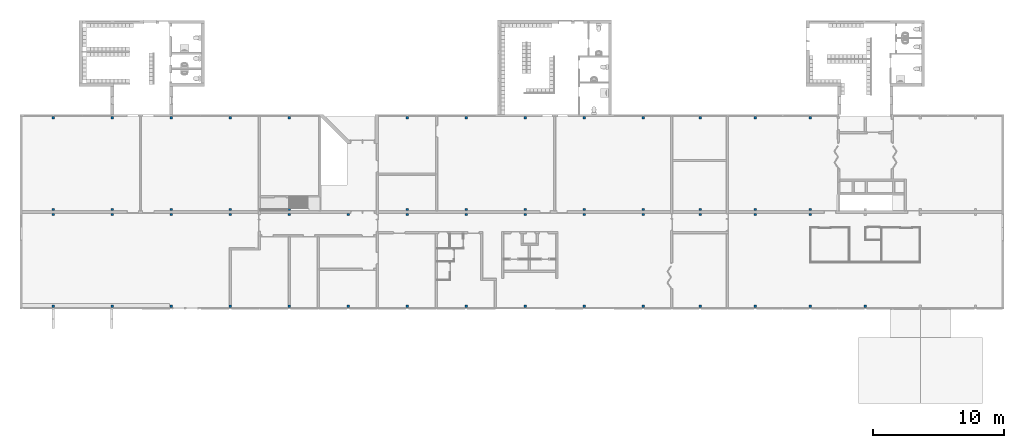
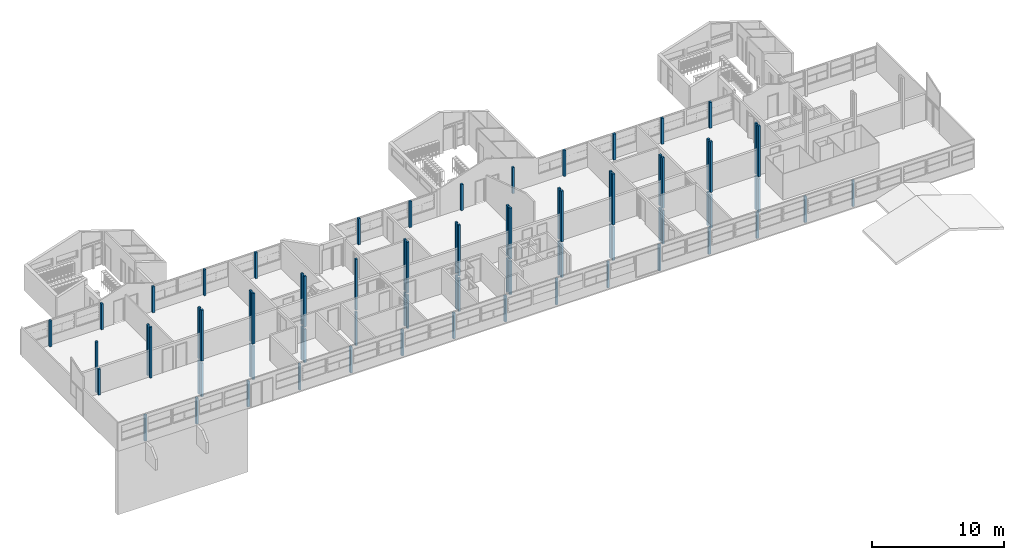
# One storey, part 7 of 48: 55 columns.
"""IFC2X3 building model written with IfcOpenShell, lengths in millimetres."""

from ifc_helpers import new_model, entity, si_unit, converted_unit, derived_unit, money_unit, direction, frame, origin_with_axes, place, context, subcontext, project, spatial, faceted_brep, material, type_object, element, save


model = new_model("IFC2X3")

# Units and contexts
model_context = context("Model", 3, precision=0.01, world=origin_with_axes(), true_north=direction((0.0, 1.0)))
body_context = subcontext(model_context, "Body", "Model", "MODEL_VIEW")
ifc_project = project(units=[si_unit("LENGTHUNIT", "METRE", prefix="MILLI"), si_unit("AREAUNIT", "SQUARE_METRE"), si_unit("VOLUMEUNIT", "CUBIC_METRE"), converted_unit("PLANEANGLEUNIT", "DEGREE", entity("IfcPlaneAngleMeasure", 0.0174532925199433), si_unit("PLANEANGLEUNIT", "RADIAN"), dimensions=[0, 0, 0, 0, 0, 0, 0]), money_unit("USD"), converted_unit("TIMEUNIT", "Year", entity("IfcTimeMeasure", 31557600.0), si_unit("TIMEUNIT", "SECOND"), dimensions=[0, 0, 1, 0, 0, 0, 0]), si_unit("MASSUNIT", "GRAM", prefix="KILO"), si_unit("THERMODYNAMICTEMPERATUREUNIT", "DEGREE_CELSIUS"), si_unit("LUMINOUSINTENSITYUNIT", "LUMEN"), si_unit("ENERGYUNIT", "JOULE", prefix="MEGA"), derived_unit("THERMALCONDUCTANCEUNIT", [(si_unit("POWERUNIT", "WATT"), 1), (si_unit("LENGTHUNIT", "METRE"), -1), (si_unit("THERMODYNAMICTEMPERATUREUNIT", "KELVIN"), -1)]), derived_unit("SPECIFICHEATCAPACITYUNIT", [(si_unit("ENERGYUNIT", "JOULE"), 1), (si_unit("MASSUNIT", "GRAM", prefix="KILO"), -1), (si_unit("THERMODYNAMICTEMPERATUREUNIT", "KELVIN"), -1)]), derived_unit("MASSDENSITYUNIT", [(si_unit("MASSUNIT", "GRAM", prefix="KILO"), 1), (si_unit("VOLUMEUNIT", "CUBIC_METRE"), -1)])], contexts=[model_context])

# Site, building, storey
site_placement = place(None, origin_with_axes())
site = spatial("IfcSite", under=ifc_project, at=site_placement, Name="Site", CompositionType="ELEMENT")
building_placement = place(site_placement, origin_with_axes())
building = spatial("IfcBuilding", under=site, at=building_placement, Name="Building", CompositionType="ELEMENT")
storey_placement = place(building_placement, frame((0.0, 0.0, 3300.0), z_axis=(0.0, 0.0, 1.0), x_axis=(1.0, 0.0, 0.0)))
storey = spatial("IfcBuildingStorey", under=building, at=storey_placement, Name="1 ETG", CompositionType="ELEMENT", Elevation=3300.0)

# Columns
ifc_material = material(Name="GENERIC - STRUCTURAL")
column_type_1 = type_object("IfcColumnType", Name="GENERIC - STRUCTURAL 180 x 200", PredefinedType="COLUMN")
for number, where, z_axis, x_axis, name in (
    (1, (31499.99999999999, 7299.802441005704, 0.0), (0.0, 0.0, 1.0), (1.0, 0.0, 0.0), "CRE - 001"),
    (2, (26999.99999999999, 7299.794481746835, 0.0), (0.0, 0.0, 1.0), (1.0, 0.0, 0.0), "CRE - 001"),
):
    element("IfcColumn", number, at=place(storey_placement, frame(where, z_axis=z_axis, x_axis=x_axis)), inside=storey, type_object=column_type_1, material=ifc_material, Name=name, ObjectType="COLUMN", context=body_context, shape_type="Brep", body=[
        faceted_brep([(89.99999999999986, -99.99999999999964, 2400.0), (-89.99999999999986, -99.99999999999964, 2400.0), (-89.99999999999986, -99.99999999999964, 0.0), (89.99999999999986, -99.99999999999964, 0.0), (89.99999999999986, 100.0000000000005, 2400.0), (-89.99999999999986, 100.0000000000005, 2400.0), (-89.99999999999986, 100.0000000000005, 0.0), (89.99999999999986, 100.0000000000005, 0.0)], [[[0, 1, 2, 3]], [[4, 5, 1, 0]], [[1, 5, 6, 2]], [[7, 3, 2, 6]], [[4, 0, 3, 7]], [[5, 4, 7, 6]]]),
    ])
for number, where, z_axis, x_axis, name in (
    (3, (35999.99999999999, 7299.810400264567, 0.0), (0.0, 0.0, 1.0), (1.0, 0.0, 0.0), "CRE - 001"),
    (4, (40499.99999999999, 7299.818359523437, 0.0), (0.0, 0.0, 1.0), (1.0, 0.0, 0.0), "CRE - 001"),
    (5, (44999.99999999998, 7299.826318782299, 0.0), (0.0, 0.0, 1.0), (1.0, 0.0, 0.0), "CRE - 001"),
    (6, (49349.99999999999, 7299.834012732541, 0.0), (0.0, 0.0, 1.0), (1.0, 0.0, 0.0), "CRE - 001"),
):
    element("IfcColumn", number, at=place(storey_placement, frame(where, z_axis=z_axis, x_axis=x_axis)), inside=storey, type_object=column_type_1, material=ifc_material, Name=name, ObjectType="COLUMN", context=body_context, shape_type="Brep", body=[
        faceted_brep([(90.00000000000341, -99.99999999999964, 2400.0), (-90.00000000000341, -99.99999999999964, 2400.0), (-90.00000000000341, -99.99999999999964, 0.0), (90.00000000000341, -99.99999999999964, 0.0), (90.00000000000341, 100.0000000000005, 2400.0), (-90.00000000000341, 100.0000000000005, 2400.0), (-90.00000000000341, 100.0000000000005, 0.0), (90.00000000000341, 100.0000000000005, 0.0)], [[[0, 1, 2, 3]], [[4, 5, 1, 0]], [[1, 5, 6, 2]], [[7, 3, 2, 6]], [[4, 0, 3, 7]], [[5, 4, 7, 6]]]),
    ])
for number, where, z_axis, x_axis, name in (
    (7, (22499.99999999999, 7299.786522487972, 0.0), (0.0, 0.0, 1.0), (1.0, 0.0, 0.0), "CRE - 001"),
    (8, (18000.00000000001, 7299.778563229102, 0.0), (0.0, 0.0, 1.0), (1.0, 0.0, 0.0), "CRE - 001"),
    (9, (13499.99999999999, 7299.770603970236, 0.0), (0.0, 0.0, 1.0), (1.0, 0.0, 0.0), "CRE - 001"),
    (10, (8999.999999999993, 7299.76264471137, 0.0), (0.0, 0.0, 1.0), (1.0, 0.0, 0.0), "CRE - 001"),
):
    element("IfcColumn", number, at=place(storey_placement, frame(where, z_axis=z_axis, x_axis=x_axis)), inside=storey, type_object=column_type_1, material=ifc_material, Name=name, ObjectType="COLUMN", context=body_context, shape_type="Brep", body=[
        faceted_brep([(89.99999999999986, -99.99999999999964, 2400.0), (-89.99999999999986, -99.99999999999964, 2400.0), (-89.99999999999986, -99.99999999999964, 0.0), (89.99999999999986, -99.99999999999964, 0.0), (89.99999999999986, 100.0000000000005, 2400.0), (-89.99999999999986, 100.0000000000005, 2400.0), (-89.99999999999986, 100.0000000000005, 0.0), (89.99999999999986, 100.0000000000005, 0.0)], [[[0, 1, 2, 3]], [[4, 5, 1, 0]], [[1, 5, 6, 2]], [[7, 3, 2, 6]], [[4, 0, 3, 7]], [[5, 4, 7, 6]]]),
    ])
for number, where, z_axis, x_axis, name in (
    (11, (0.0, 7299.746549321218, 0.0), (0.0, 0.0, 1.0), (1.0, 0.0, 0.0), "CRE - 001"),
    (12, (53549.99999999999, 7299.874976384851, 0.0), (0.0, 0.0, 1.0), (1.0, 0.0, 0.0), "CRE - 001"),
):
    element("IfcColumn", number, at=place(storey_placement, frame(where, z_axis=z_axis, x_axis=x_axis)), inside=storey, type_object=column_type_1, material=ifc_material, Name=name, ObjectType="COLUMN", context=body_context, shape_type="Brep", body=[
        faceted_brep([(90.00000000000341, -99.99999999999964, 2400.0), (-90.00000000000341, -99.99999999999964, 2400.0), (-90.00000000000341, -99.99999999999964, 0.0), (90.00000000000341, -99.99999999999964, 0.0), (90.00000000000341, 100.0000000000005, 2400.0), (-90.00000000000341, 100.0000000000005, 2400.0), (-90.00000000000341, 100.0000000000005, 0.0), (90.00000000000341, 100.0000000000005, 0.0)], [[[0, 1, 2, 3]], [[4, 5, 1, 0]], [[1, 5, 6, 2]], [[7, 3, 2, 6]], [[4, 0, 3, 7]], [[5, 4, 7, 6]]]),
    ])
column_1_placement = place(storey_placement, frame((4499.999999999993, 7299.754597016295, 0.0), z_axis=(0.0, 0.0, 1.0), x_axis=(1.0, 0.0, 0.0)))
element("IfcColumn", 13, at=column_1_placement, inside=storey, type_object=column_type_1, material=ifc_material, Name="CRE - 001", ObjectType="COLUMN", context=body_context, shape_type="Brep", body=[
    faceted_brep([(89.99999999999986, -99.99999999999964, 2400.0), (-89.99999999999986, -99.99999999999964, 2400.0), (-89.99999999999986, -99.99999999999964, 0.0), (89.99999999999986, -99.99999999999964, 0.0), (89.99999999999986, 100.0000000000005, 2400.0), (-89.99999999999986, 100.0000000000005, 2400.0), (-89.99999999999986, 100.0000000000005, 0.0), (89.99999999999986, 100.0000000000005, 0.0)], [[[0, 1, 2, 3]], [[4, 5, 1, 0]], [[1, 5, 6, 2]], [[7, 3, 2, 6]], [[4, 0, 3, 7]], [[5, 4, 7, 6]]]),
])
for number, where, z_axis, x_axis, name in (
    (14, (57749.99999999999, 7299.848870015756, 0.0), (0.0, 0.0, 1.0), (1.0, 0.0, 0.0), "CRE - 001"),
    (15, (61949.99999999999, 7299.856298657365, 0.0), (0.0, 0.0, 1.0), (1.0, 0.0, 0.0), "CRE - 001"),
):
    element("IfcColumn", number, at=place(storey_placement, frame(where, z_axis=z_axis, x_axis=x_axis)), inside=storey, type_object=column_type_1, material=ifc_material, Name=name, ObjectType="COLUMN", context=body_context, shape_type="Brep", body=[
        faceted_brep([(90.00000000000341, -99.99999999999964, 2400.0), (-90.00000000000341, -99.99999999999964, 2400.0), (-90.00000000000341, -99.99999999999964, 0.0), (90.00000000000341, -99.99999999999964, 0.0), (90.00000000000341, 100.0000000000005, 2400.0), (-90.00000000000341, 100.0000000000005, 2400.0), (-90.00000000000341, 100.0000000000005, 0.0), (90.00000000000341, 100.0000000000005, 0.0)], [[[0, 1, 2, 3]], [[4, 5, 1, 0]], [[1, 5, 6, 2]], [[7, 3, 2, 6]], [[4, 0, 3, 7]], [[5, 4, 7, 6]]]),
    ])
for number, where, z_axis, x_axis, name in (
    (16, (53549.99999999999, 21699.90687090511, 0.0), (0.0, 0.0, 1.0), (1.0, 0.0, 0.0), "CRE - 001"),
    (17, (57749.99999999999, 21699.89985745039, 0.0), (0.0, 0.0, 1.0), (1.0, 0.0, 0.0), "CRE - 001"),
    (18, (49349.99999999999, 21699.91388435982, 0.0), (0.0, 0.0, 1.0), (1.0, 0.0, 0.0), "CRE - 001"),
    (19, (44999.99999999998, 21699.92114829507, 0.0), (0.0, 0.0, 1.0), (1.0, 0.0, 0.0), "CRE - 001"),
    (20, (35999.99999999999, 21699.87497638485, 0.0), (0.0, 0.0, 1.0), (1.0, 0.0, 0.0), "CRE - 001"),
    (21, (40499.99999999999, 21699.87497638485, 0.0), (0.0, 0.0, 1.0), (1.0, 0.0, 0.0), "CRE - 001"),
):
    element("IfcColumn", number, at=place(storey_placement, frame(where, z_axis=z_axis, x_axis=x_axis)), inside=storey, type_object=column_type_1, material=ifc_material, Name=name, ObjectType="COLUMN", context=body_context, shape_type="Brep", body=[
        faceted_brep([(90.00000000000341, -99.99999999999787, 2400.0), (-90.00000000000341, -99.99999999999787, 2400.0), (-90.00000000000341, -99.99999999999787, 0.0), (90.00000000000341, -99.99999999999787, 0.0), (90.00000000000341, 100.0000000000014, 2400.0), (-90.00000000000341, 100.0000000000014, 2400.0), (-90.00000000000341, 100.0000000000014, 0.0), (90.00000000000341, 100.0000000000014, 0.0)], [[[0, 1, 2, 3]], [[4, 5, 1, 0]], [[1, 5, 6, 2]], [[7, 3, 2, 6]], [[4, 0, 3, 7]], [[5, 4, 7, 6]]]),
    ])
for number, where, z_axis, x_axis, name in (
    (22, (31499.99999999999, 21699.94369154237, 0.0), (0.0, 0.0, 1.0), (1.0, 0.0, 0.0), "CRE - 001"),
    (23, (26999.99999999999, 21699.95120595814, 0.0), (0.0, 0.0, 1.0), (1.0, 0.0, 0.0), "CRE - 001"),
    (24, (18000.00000000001, 21699.96623478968, 0.0), (0.0, 0.0, 1.0), (1.0, 0.0, 0.0), "CRE - 001"),
    (25, (13499.99999999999, 21699.97374920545, 0.0), (0.0, 0.0, 1.0), (1.0, 0.0, 0.0), "CRE - 001"),
    (26, (9000.0, 21699.87497638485, 0.0), (0.0, 0.0, 1.0), (1.0, 0.0, 0.0), "CRE - 001"),
    (27, (4499.999999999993, 21699.87497638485, 0.0), (0.0, 0.0, 1.0), (1.0, 0.0, 0.0), "CRE - 001"),
):
    element("IfcColumn", number, at=place(storey_placement, frame(where, z_axis=z_axis, x_axis=x_axis)), inside=storey, type_object=column_type_1, material=ifc_material, Name=name, ObjectType="COLUMN", context=body_context, shape_type="Brep", body=[
        faceted_brep([(89.99999999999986, -99.99999999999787, 2400.0), (-89.99999999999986, -99.99999999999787, 2400.0), (-89.99999999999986, -99.99999999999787, 0.0), (89.99999999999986, -99.99999999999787, 0.0), (89.99999999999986, 100.0000000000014, 2400.0), (-89.99999999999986, 100.0000000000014, 2400.0), (-89.99999999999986, 100.0000000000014, 0.0), (89.99999999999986, 100.0000000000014, 0.0)], [[[0, 1, 2, 3]], [[4, 5, 1, 0]], [[1, 5, 6, 2]], [[7, 3, 2, 6]], [[4, 0, 3, 7]], [[5, 4, 7, 6]]]),
    ])
column_2_placement = place(storey_placement, frame((0.0, 21699.99645943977, 0.0), z_axis=(0.0, 0.0, 1.0), x_axis=(1.0, 0.0, 0.0)))
element("IfcColumn", 28, at=column_2_placement, inside=storey, type_object=column_type_1, material=ifc_material, Name="CRE - 001", ObjectType="COLUMN", context=body_context, shape_type="Brep", body=[
    faceted_brep([(90.00000000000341, -99.99999999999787, 2400.0), (-90.00000000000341, -99.99999999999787, 2400.0), (-90.00000000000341, -99.99999999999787, 0.0), (90.00000000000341, -99.99999999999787, 0.0), (90.00000000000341, 100.0000000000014, 2400.0), (-90.00000000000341, 100.0000000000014, 2400.0), (-90.00000000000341, 100.0000000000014, 0.0), (90.00000000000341, 100.0000000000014, 0.0)], [[[0, 1, 2, 3]], [[4, 5, 1, 0]], [[1, 5, 6, 2]], [[7, 3, 2, 6]], [[4, 0, 3, 7]], [[5, 4, 7, 6]]]),
])
column_type_2 = type_object("IfcColumnType", Name="GENERIC - STRUCTURAL 180 x 180", PredefinedType="COLUMN")
column_3_placement = place(storey_placement, frame((0.0, 14309.87497638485, 0.0), z_axis=(0.0, 0.0, 1.0), x_axis=(1.0, 0.0, 0.0)))
element("IfcColumn", 29, at=column_3_placement, inside=storey, type_object=column_type_2, material=ifc_material, Name="CRE - 001", ObjectType="COLUMN", context=body_context, shape_type="Brep", body=[
    faceted_brep([(90.00000000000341, -89.99999999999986, 2400.0), (-90.00000000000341, -89.99999999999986, 2400.0), (-90.00000000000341, -89.99999999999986, 0.0), (90.00000000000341, -89.99999999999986, 0.0), (90.00000000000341, 89.99999999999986, 2400.0), (-90.00000000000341, 89.99999999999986, 2400.0), (-90.00000000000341, 89.99999999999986, 0.0), (90.00000000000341, 89.99999999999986, 0.0)], [[[0, 1, 2, 3]], [[4, 5, 1, 0]], [[1, 5, 6, 2]], [[7, 3, 2, 6]], [[4, 0, 3, 7]], [[5, 4, 7, 6]]]),
])
for number, where, z_axis, x_axis, name in (
    (30, (8999.999999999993, 14309.87497638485, -3300.0), (0.0, 0.0, 1.0), (1.0, 0.0, 0.0), "CRE - 001"),
    (31, (13499.99999999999, 14309.87497638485, -3300.0), (0.0, 0.0, 1.0), (1.0, 0.0, 0.0), "CRE - 001"),
):
    element("IfcColumn", number, at=place(storey_placement, frame(where, z_axis=z_axis, x_axis=x_axis)), inside=storey, type_object=column_type_2, material=ifc_material, Name=name, ObjectType="COLUMN", context=body_context, shape_type="Brep", body=[
        faceted_brep([(-89.99999999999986, 89.99999999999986, 0.0), (-89.99999999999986, 89.99999999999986, 3100.0), (89.99999999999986, 89.99999999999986, 3100.0), (89.99999999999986, 89.99999999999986, 0.0), (-89.99999999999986, -89.99999999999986, 0.0), (-89.99999999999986, -89.99999999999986, 3100.0), (89.99999999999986, -89.99999999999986, 3100.0), (89.99999999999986, -89.99999999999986, 0.0)], [[[0, 1, 2, 3]], [[4, 5, 1, 0]], [[5, 6, 2, 1]], [[3, 2, 6, 7]], [[3, 7, 4, 0]], [[7, 6, 5, 4]]]),
        faceted_brep([(89.99999999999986, -89.99999999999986, 8000.0), (89.99999999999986, -89.99999999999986, 3300.0), (89.99999999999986, 89.99999999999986, 3300.0), (89.99999999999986, 89.99999999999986, 8000.0), (-89.99999999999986, -89.99999999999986, 8000.0), (-89.99999999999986, -89.99999999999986, 3300.0), (-89.99999999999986, 89.99999999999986, 3300.0), (-89.99999999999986, 89.99999999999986, 8000.0)], [[[0, 1, 2, 3]], [[4, 5, 1, 0]], [[5, 6, 2, 1]], [[3, 2, 6, 7]], [[3, 7, 4, 0]], [[7, 6, 5, 4]]]),
    ])
column_4_placement = place(storey_placement, frame((4499.999999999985, 14309.87497638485, 0.0), z_axis=(0.0, 0.0, 1.0), x_axis=(1.0, 0.0, 0.0)))
element("IfcColumn", 32, at=column_4_placement, inside=storey, type_object=column_type_2, material=ifc_material, Name="CRE - 001", ObjectType="COLUMN", context=body_context, shape_type="Brep", body=[
    faceted_brep([(89.99999999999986, -89.99999999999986, 4700.0), (-89.99999999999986, -89.99999999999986, 4700.0), (-89.99999999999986, -89.99999999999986, 0.0), (89.99999999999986, -89.99999999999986, 0.0), (89.99999999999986, 89.99999999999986, 4700.0), (-89.99999999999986, 89.99999999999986, 4700.0), (-89.99999999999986, 89.99999999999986, 0.0), (89.99999999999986, 89.99999999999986, 0.0)], [[[0, 1, 2, 3]], [[4, 5, 1, 0]], [[1, 5, 6, 2]], [[7, 3, 2, 6]], [[4, 0, 3, 7]], [[5, 4, 7, 6]]]),
])
for number, where, z_axis, x_axis, name in (
    (33, (18000.00000000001, 14309.87497638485, -3300.0), (0.0, 0.0, 1.0), (1.0, 0.0, 0.0), "CRE - 001"),
    (34, (22499.99999999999, 14309.87497638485, -3300.0), (0.0, 0.0, 1.0), (1.0, 0.0, 0.0), "CRE - 001"),
    (35, (26999.99999999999, 14309.87497638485, -3300.0), (0.0, 0.0, 1.0), (1.0, 0.0, 0.0), "CRE - 001"),
    (36, (31499.99999999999, 14309.87497638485, -3300.0), (0.0, 0.0, 1.0), (1.0, 0.0, 0.0), "CRE - 001"),
):
    element("IfcColumn", number, at=place(storey_placement, frame(where, z_axis=z_axis, x_axis=x_axis)), inside=storey, type_object=column_type_2, material=ifc_material, Name=name, ObjectType="COLUMN", context=body_context, shape_type="Brep", body=[
        faceted_brep([(-89.99999999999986, 89.99999999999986, 0.0), (-89.99999999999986, 89.99999999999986, 3100.0), (89.99999999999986, 89.99999999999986, 3100.0), (89.99999999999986, 89.99999999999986, 0.0), (-89.99999999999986, -89.99999999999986, 0.0), (-89.99999999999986, -89.99999999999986, 3100.0), (89.99999999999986, -89.99999999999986, 3100.0), (89.99999999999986, -89.99999999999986, 0.0)], [[[0, 1, 2, 3]], [[4, 5, 1, 0]], [[5, 6, 2, 1]], [[3, 2, 6, 7]], [[3, 7, 4, 0]], [[7, 6, 5, 4]]]),
        faceted_brep([(89.99999999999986, -89.99999999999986, 8000.0), (89.99999999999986, -89.99999999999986, 3300.0), (89.99999999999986, 89.99999999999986, 3300.0), (89.99999999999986, 89.99999999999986, 8000.0), (-89.99999999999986, -89.99999999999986, 8000.0), (-89.99999999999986, -89.99999999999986, 3300.0), (-89.99999999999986, 89.99999999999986, 3300.0), (-89.99999999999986, 89.99999999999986, 8000.0)], [[[0, 1, 2, 3]], [[4, 5, 1, 0]], [[5, 6, 2, 1]], [[3, 2, 6, 7]], [[3, 7, 4, 0]], [[7, 6, 5, 4]]]),
    ])
for number, where, z_axis, x_axis, name in (
    (37, (35999.99999999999, 14309.87497638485, -3300.0), (0.0, 0.0, 1.0), (1.0, 0.0, 0.0), "CRE - 001"),
    (38, (40499.99999999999, 14309.87497638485, -3300.0), (0.0, 0.0, 1.0), (1.0, 0.0, 0.0), "CRE - 001"),
    (39, (44999.99999999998, 14309.87497638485, -3300.0), (0.0, 0.0, 1.0), (1.0, 0.0, 0.0), "CRE - 001"),
    (40, (49349.99999999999, 14309.87497638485, -3300.0), (0.0, 0.0, 1.0), (1.0, 0.0, 0.0), "CRE - 001"),
    (41, (53549.99999999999, 14309.87497638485, -3300.0), (0.0, 0.0, 1.0), (1.0, 0.0, 0.0), "CRE - 001"),
    (42, (57749.99999999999, 14309.87497638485, -3300.0), (0.0, 0.0, 1.0), (1.0, 0.0, 0.0), "CRE - 001"),
    (43, (53549.99999999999, 14689.87497638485, -3300.0), (0.0, 0.0, 1.0), (1.0, 0.0, 0.0), "CRE - 001"),
    (44, (57749.99999999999, 14689.87497638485, -3300.0), (0.0, 0.0, 1.0), (1.0, 0.0, 0.0), "CRE - 001"),
    (45, (49349.99999999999, 14689.87497638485, -3300.0), (0.0, 0.0, 1.0), (1.0, 0.0, 0.0), "CRE - 001"),
    (46, (44999.99999999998, 14689.87497638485, -3300.0), (0.0, 0.0, 1.0), (1.0, 0.0, 0.0), "CRE - 001"),
    (47, (40499.99999999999, 14689.87497638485, -3300.0), (0.0, 0.0, 1.0), (1.0, 0.0, 0.0), "CRE - 001"),
    (48, (35999.99999999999, 14689.87497638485, -3300.0), (0.0, 0.0, 1.0), (1.0, 0.0, 0.0), "CRE - 001"),
):
    element("IfcColumn", number, at=place(storey_placement, frame(where, z_axis=z_axis, x_axis=x_axis)), inside=storey, type_object=column_type_2, material=ifc_material, Name=name, ObjectType="COLUMN", context=body_context, shape_type="Brep", body=[
        faceted_brep([(-90.00000000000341, 89.99999999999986, 0.0), (-90.00000000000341, 89.99999999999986, 3100.0), (90.00000000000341, 89.99999999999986, 3100.0), (90.00000000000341, 89.99999999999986, 0.0), (-90.00000000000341, -89.99999999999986, 0.0), (-90.00000000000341, -89.99999999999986, 3100.0), (90.00000000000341, -89.99999999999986, 3100.0), (90.00000000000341, -89.99999999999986, 0.0)], [[[0, 1, 2, 3]], [[4, 5, 1, 0]], [[5, 6, 2, 1]], [[3, 2, 6, 7]], [[3, 7, 4, 0]], [[7, 6, 5, 4]]]),
        faceted_brep([(90.00000000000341, -89.99999999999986, 8000.0), (90.00000000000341, -89.99999999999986, 3300.0), (90.00000000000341, 89.99999999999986, 3300.0), (90.00000000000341, 89.99999999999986, 8000.0), (-90.00000000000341, -89.99999999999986, 8000.0), (-90.00000000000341, -89.99999999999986, 3300.0), (-90.00000000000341, 89.99999999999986, 3300.0), (-90.00000000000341, 89.99999999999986, 8000.0)], [[[0, 1, 2, 3]], [[4, 5, 1, 0]], [[5, 6, 2, 1]], [[3, 2, 6, 7]], [[3, 7, 4, 0]], [[7, 6, 5, 4]]]),
    ])
for number, where, z_axis, x_axis, name in (
    (49, (31499.99999999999, 14689.87497638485, -3300.0), (0.0, 0.0, 1.0), (1.0, 0.0, 0.0), "CRE - 001"),
    (50, (26999.99999999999, 14689.87497638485, -3300.0), (0.0, 0.0, 1.0), (1.0, 0.0, 0.0), "CRE - 001"),
    (51, (13499.99999999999, 14689.87497638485, -3300.0), (0.0, 0.0, 1.0), (1.0, 0.0, 0.0), "CRE - 001"),
    (52, (8999.999999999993, 14689.87497638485, -3300.0), (0.0, 0.0, 1.0), (1.0, 0.0, 0.0), "CRE - 001"),
):
    element("IfcColumn", number, at=place(storey_placement, frame(where, z_axis=z_axis, x_axis=x_axis)), inside=storey, type_object=column_type_2, material=ifc_material, Name=name, ObjectType="COLUMN", context=body_context, shape_type="Brep", body=[
        faceted_brep([(-89.99999999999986, 89.99999999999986, 0.0), (-89.99999999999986, 89.99999999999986, 3100.0), (89.99999999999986, 89.99999999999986, 3100.0), (89.99999999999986, 89.99999999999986, 0.0), (-89.99999999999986, -89.99999999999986, 0.0), (-89.99999999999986, -89.99999999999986, 3100.0), (89.99999999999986, -89.99999999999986, 3100.0), (89.99999999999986, -89.99999999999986, 0.0)], [[[0, 1, 2, 3]], [[4, 5, 1, 0]], [[5, 6, 2, 1]], [[3, 2, 6, 7]], [[3, 7, 4, 0]], [[7, 6, 5, 4]]]),
        faceted_brep([(89.99999999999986, -89.99999999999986, 8000.0), (89.99999999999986, -89.99999999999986, 3300.0), (89.99999999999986, 89.99999999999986, 3300.0), (89.99999999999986, 89.99999999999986, 8000.0), (-89.99999999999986, -89.99999999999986, 8000.0), (-89.99999999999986, -89.99999999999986, 3300.0), (-89.99999999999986, 89.99999999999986, 3300.0), (-89.99999999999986, 89.99999999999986, 8000.0)], [[[0, 1, 2, 3]], [[4, 5, 1, 0]], [[5, 6, 2, 1]], [[3, 2, 6, 7]], [[3, 7, 4, 0]], [[7, 6, 5, 4]]]),
    ])
column_5_placement = place(storey_placement, frame((4499.999999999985, 14689.87497638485, 0.0), z_axis=(0.0, 0.0, 1.0), x_axis=(1.0, 0.0, 0.0)))
element("IfcColumn", 53, at=column_5_placement, inside=storey, type_object=column_type_2, material=ifc_material, Name="CRE - 001", ObjectType="COLUMN", context=body_context, shape_type="Brep", body=[
    faceted_brep([(89.99999999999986, -89.99999999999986, 4700.0), (-89.99999999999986, -89.99999999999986, 4700.0), (-89.99999999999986, -89.99999999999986, 0.0), (89.99999999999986, -89.99999999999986, 0.0), (89.99999999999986, 89.99999999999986, 4700.0), (-89.99999999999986, 89.99999999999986, 4700.0), (-89.99999999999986, 89.99999999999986, 0.0), (89.99999999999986, 89.99999999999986, 0.0)], [[[0, 1, 2, 3]], [[4, 5, 1, 0]], [[1, 5, 6, 2]], [[7, 3, 2, 6]], [[4, 0, 3, 7]], [[5, 4, 7, 6]]]),
])
column_6_placement = place(storey_placement, frame((0.0, 14689.87497638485, 0.0), z_axis=(0.0, 0.0, 1.0), x_axis=(1.0, 0.0, 0.0)))
element("IfcColumn", 54, at=column_6_placement, inside=storey, type_object=column_type_2, material=ifc_material, Name="CRE - 001", ObjectType="COLUMN", context=body_context, shape_type="Brep", body=[
    faceted_brep([(90.00000000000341, -89.99999999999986, 4700.0), (-90.00000000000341, -89.99999999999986, 4700.0), (-90.00000000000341, -89.99999999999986, 0.0), (90.00000000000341, -89.99999999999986, 0.0), (90.00000000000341, 89.99999999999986, 4700.0), (-90.00000000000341, 89.99999999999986, 4700.0), (-90.00000000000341, 89.99999999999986, 0.0), (90.00000000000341, 89.99999999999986, 0.0)], [[[0, 1, 2, 3]], [[4, 5, 1, 0]], [[1, 5, 6, 2]], [[7, 3, 2, 6]], [[4, 0, 3, 7]], [[5, 4, 7, 6]]]),
])
column_7_placement = place(storey_placement, frame((18000.00000000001, 14689.87497638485, -3300.0), z_axis=(0.0, 0.0, 1.0), x_axis=(1.0, 0.0, 0.0)))
element("IfcColumn", 55, at=column_7_placement, inside=storey, type_object=column_type_2, material=ifc_material, Name="CRE - 001", ObjectType="COLUMN", context=body_context, shape_type="Brep", body=[
    faceted_brep([(-89.99999999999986, 89.99999999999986, 0.0), (-89.99999999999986, 89.99999999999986, 3100.0), (89.99999999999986, 89.99999999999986, 3100.0), (89.99999999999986, 89.99999999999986, 0.0), (-89.99999999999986, -89.99999999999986, 0.0), (-89.99999999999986, -89.99999999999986, 3100.0), (89.99999999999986, -89.99999999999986, 3100.0), (89.99999999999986, -89.99999999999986, 0.0)], [[[0, 1, 2, 3]], [[4, 5, 1, 0]], [[5, 6, 2, 1]], [[3, 2, 6, 7]], [[3, 7, 4, 0]], [[7, 6, 5, 4]]]),
    faceted_brep([(89.99999999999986, -89.99999999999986, 8000.0), (89.99999999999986, -89.99999999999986, 3300.0), (89.99999999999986, 89.99999999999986, 3300.0), (89.99999999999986, 89.99999999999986, 8000.0), (-89.99999999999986, -89.99999999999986, 8000.0), (-89.99999999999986, -89.99999999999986, 3300.0), (-89.99999999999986, 89.99999999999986, 3300.0), (-89.99999999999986, 89.99999999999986, 8000.0)], [[[0, 1, 2, 3]], [[4, 5, 1, 0]], [[5, 6, 2, 1]], [[3, 2, 6, 7]], [[3, 7, 4, 0]], [[7, 6, 5, 4]]]),
])

save(model, "model.ifc")
